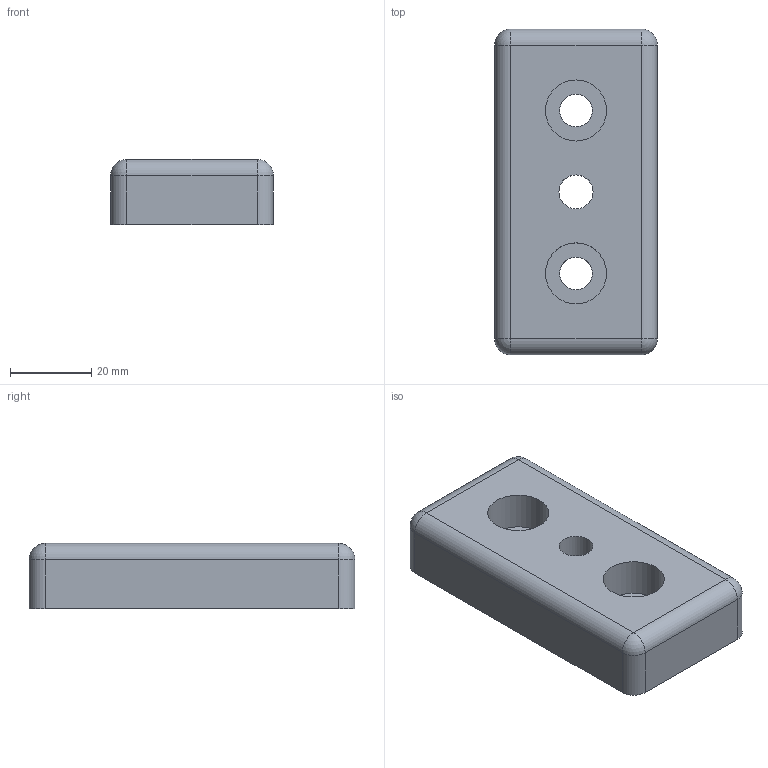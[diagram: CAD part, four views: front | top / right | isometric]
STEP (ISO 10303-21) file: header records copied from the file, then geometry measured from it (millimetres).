
FILE_DESCRIPTION(/* description */ ('STEP AP214'),/* implementation_level */ '2;1');
FILE_NAME(/* name */ 'Transport and Base Plate GN 80i-40808M10-A-ZS',/* time_stamp */ '2024-08-28T11:39:51+02:00',/* author */ ('License CC BY-ND 4.0'),/* organization */ ('CADENAS'),/* preprocessor_version */ 'ST-DEVELOPER v19.3',/* originating_system */ 'PARTsolutions',/* authorisation */ ' ');
FILE_SCHEMA (('AUTOMOTIVE_DESIGN {1 0 10303 214 3 1 1}'));
Length unit declared in the file: millimetre
Products named in the file (1): Transport and Base Plate GN 80i-40808M10-A-ZS
Bounding box: 40 x 80 x 16 mm (x, y, z)
Volume: 45306.4 mm3; surface area: 11027.1 mm2
Topology: 1 solids, 1 shells, 25 faces, 55 edges, 30 vertices
Faces by surface type: cylinder 13, plane 8, sphere 4
Full cylindrical faces by diameter (mm): 8 x2, 8.376 x1, 15 x2
Entity records: 672 total; most frequent: DIRECTION 124, CARTESIAN_POINT 102, ORIENTED_EDGE 92, AXIS2_PLACEMENT_3D 52, EDGE_CURVE 46, EDGE_LOOP 38, FACE_BOUND 38, VERTEX_POINT 30
